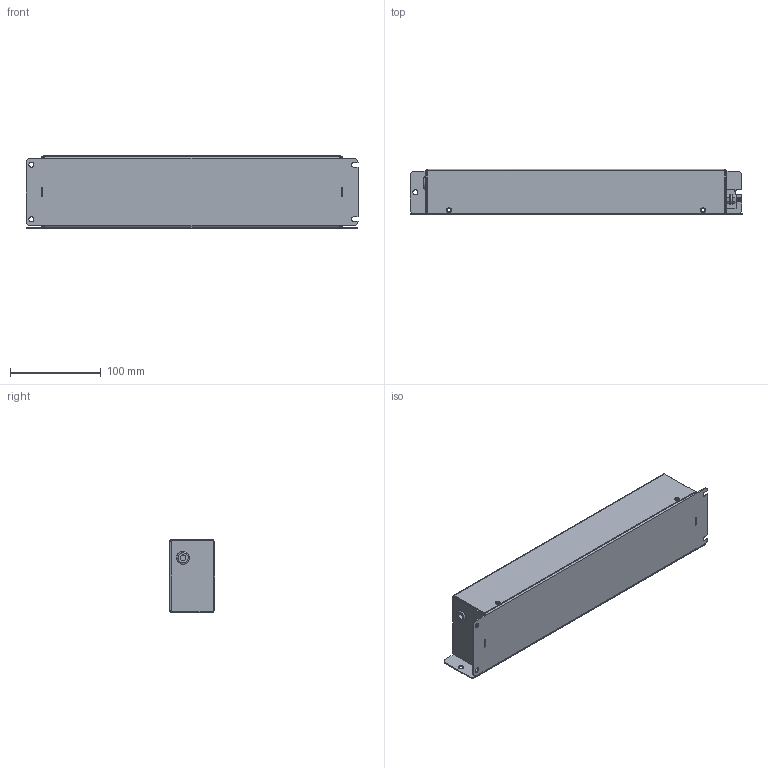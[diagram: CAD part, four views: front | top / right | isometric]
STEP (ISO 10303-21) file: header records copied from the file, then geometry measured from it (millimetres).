
FILE_DESCRIPTION (( 'STEP AP203' ), '1' );
FILE_NAME ('RF3009-SG7 assembly.STEP', '2016-03-09T15:36:21', ( '' ), ( '' ), 'SwSTEP 2.0', 'SolidWorks 2016', '' );
FILE_SCHEMA (( 'CONFIG_CONTROL_DESIGN' ));
Length unit declared in the file: millimetre
Products named in the file (11): Grommet_15069; M4 Hank; M5x20 Earth post; RF3009-SG7 LID; Flat Washer Narrow_AM_B18.22M - Plain washer, 5 mm, narrow; hex nut style 1_am_B18.2.4.1M - Hex nut, Style 1,  M5 x 0.8 --D-N; Hex Screw_AM_B18.6.7M - M5 x 0.8 x 13 Indented HHMS --13S; RF3009-SG7 box; VDFK-4; RF3009-SG7 assembly; blind fastener_pmm_PEM B-M5-1 ZI--N
Assembly tree (17 placements, depth 3):
  RF3009-SG7 assembly
    RF3009-SG7 box
    RF3009-SG7 LID
    M5x20 Earth post
      Flat Washer Narrow_AM_B18.22M - Plain washer, 5 mm, narrow  x2
      hex nut style 1_am_B18.2.4.1M - Hex nut, Style 1,  M5 x 0.8 --D-N
      Hex Screw_AM_B18.6.7M - M5 x 0.8 x 13 Indented HHMS --13S
    Grommet_15069
    VDFK-4  x3
    M4 Hank  x2
    blind fastener_pmm_PEM B-M5-1 ZI--N  x4
Bounding box: 366 x 50.3 x 80 mm (x, y, z)
Volume: 128753.9 mm3; surface area: 209831.3 mm2
Topology: 16 solids, 16 shells, 779 faces, 1943 edges, 1226 vertices
Faces by surface type: plane 416, cylinder 203, cone 148, bspline 8, torus 4
Entity records: 15264 total; most frequent: CARTESIAN_POINT 2863, DIRECTION 2417, ORIENTED_EDGE 2230, EDGE_CURVE 1115, AXIS2_PLACEMENT_3D 891, VERTEX_POINT 697, VECTOR 635, LINE 635
